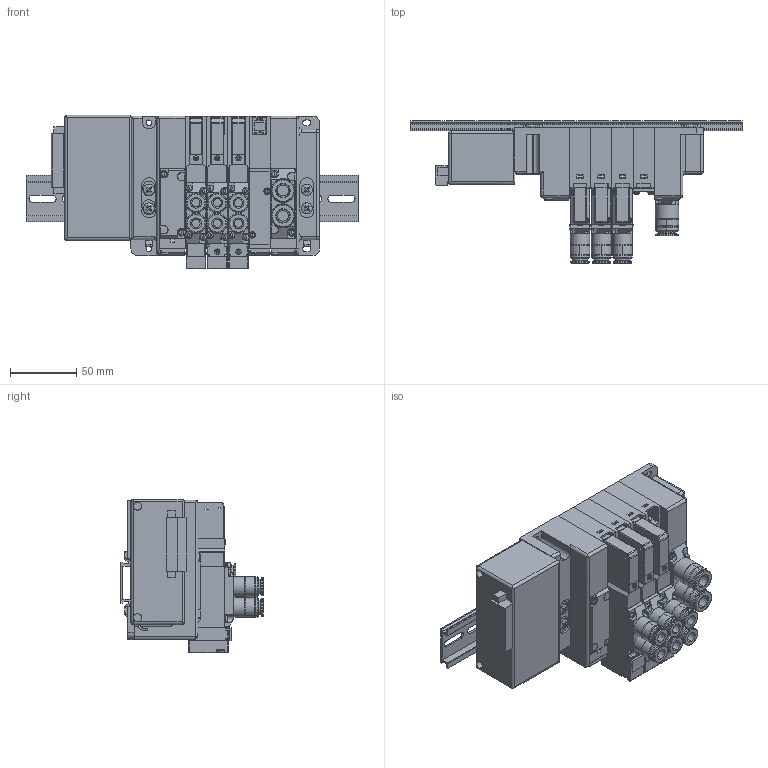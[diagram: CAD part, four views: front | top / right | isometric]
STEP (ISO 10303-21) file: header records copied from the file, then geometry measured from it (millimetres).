
FILE_DESCRIPTION( (''), '2;1');
FILE_NAME ('CVICAD02.4348.F15M4XS-JR-B1-DR_22030.stp','2021-07-12T19:15:45',(''),(''),'spGate 12.6.6','','');
FILE_SCHEMA (('AUTOMOTIVE_DESIGN'));
Length unit declared in the file: millimetre
Products named in the file (20): Assembly; CVICAD02-prt0; CVICAD02-prt1; CVICAD02-prt2; CVICAD02-prt3; CVICAD02-prt4; CVICAD02-prt5; CVICAD02-asm1; CVICAD02-asm2; CVICAD02-prt14; CVICAD02-prt15; CVICAD02-prt16; CVICAD02-prt6; CVICAD02-prt7; CVICAD02-prt8; CVICAD02-prt9; CVICAD02-prt10; CVICAD02-prt11; CVICAD02-prt12; CVICAD02-prt13
Assembly tree (34 placements, depth 3):
  Assembly
    CVICAD02-prt0  x4
    CVICAD02-prt1  x3
    CVICAD02-prt2
    CVICAD02-prt3  x4
    CVICAD02-prt4
    CVICAD02-prt5
    CVICAD02-asm1
      CVICAD02-prt6
      CVICAD02-prt7
      CVICAD02-prt8
      CVICAD02-prt9
      CVICAD02-prt10
      CVICAD02-prt11
      CVICAD02-prt12
    CVICAD02-asm2  x2
      CVICAD02-prt6
      CVICAD02-prt7
      CVICAD02-prt8
      CVICAD02-prt10
      CVICAD02-prt13
      CVICAD02-prt11
      CVICAD02-prt12
    CVICAD02-prt14
    CVICAD02-prt15
    CVICAD02-prt16
Bounding box: 250 x 107 x 115.69 mm (x, y, z)
Volume: 1005377 mm3; surface area: 248514.3 mm2
Topology: 38 solids, 38 shells, 3451 faces, 8974 edges, 5774 vertices
Faces by surface type: plane 2184, cylinder 923, bspline 296, sphere 48
Entity records: 91103 total; most frequent: CARTESIAN_POINT 12267, ORIENTED_EDGE 9022, DIRECTION 8502, COLOUR_RGB 6257, PRESENTATION_STYLE_ASSIGNMENT 6257, STYLED_ITEM 6257, EDGE_CURVE 4511, DRAUGHTING_PRE_DEFINED_CURVE_FONT 4511
